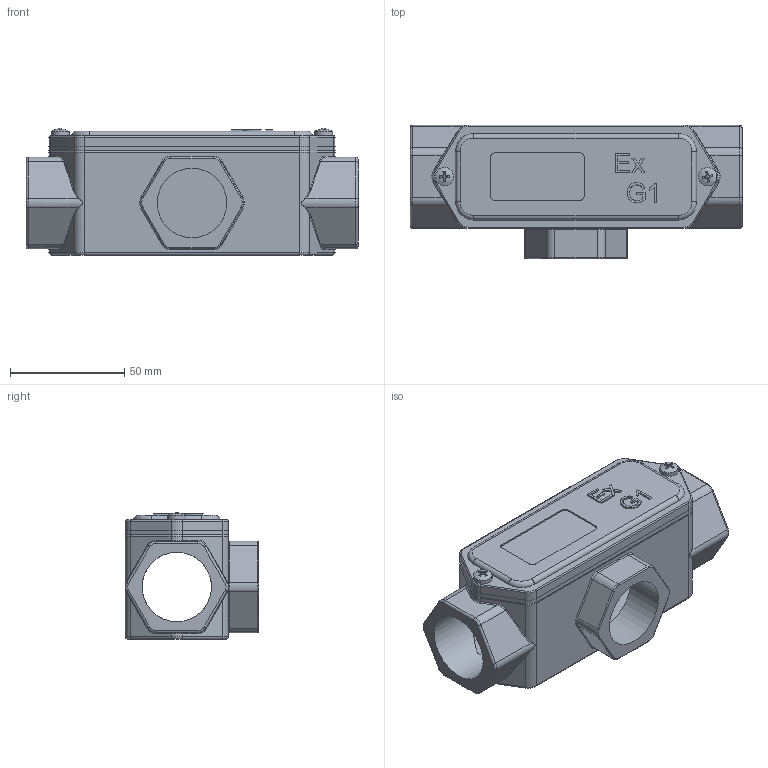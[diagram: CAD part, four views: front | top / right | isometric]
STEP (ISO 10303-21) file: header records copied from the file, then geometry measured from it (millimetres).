
FILE_DESCRIPTION((''),'2;1');
FILE_NAME('D:\WORKS\Чертежи\ТЗ\09.24\111154\СКВЕ-Т3_3d.stp','2024-09-12T09:21:51',('t.v.ogurnaya'),(''),'Autodesk Inventor 2012','Autodesk Inventor 2012','');
FILE_SCHEMA(('AUTOMOTIVE_DESIGN { 1 0 10303 214 1 1 1 1 }'));
Length unit declared in the file: millimetre
Products named in the file (1): СКВЕ-Т3_Внешний контур_1
Bounding box: 145 x 58.25 x 55.07 mm (x, y, z)
Surface area: 66346 mm2 (no closed solid volume)
Topology: 0 solids, 5 shells, 420 faces, 1090 edges, 692 vertices
Faces by surface type: plane 168, cylinder 157, torus 52, bspline 33, sphere 6, cone 4
Full cylindrical faces by diameter (mm): 3.242 x2, 3.394 x2, 4 x2, 4.5 x4, 8 x2, 30.291 x1
Entity records: 17909 total; most frequent: CARTESIAN_POINT 7159, DIRECTION 2177, ORIENTED_EDGE 2122, EDGE_CURVE 1061, AXIS2_PLACEMENT_3D 814, VERTEX_POINT 686, VECTOR 549, LINE 549
